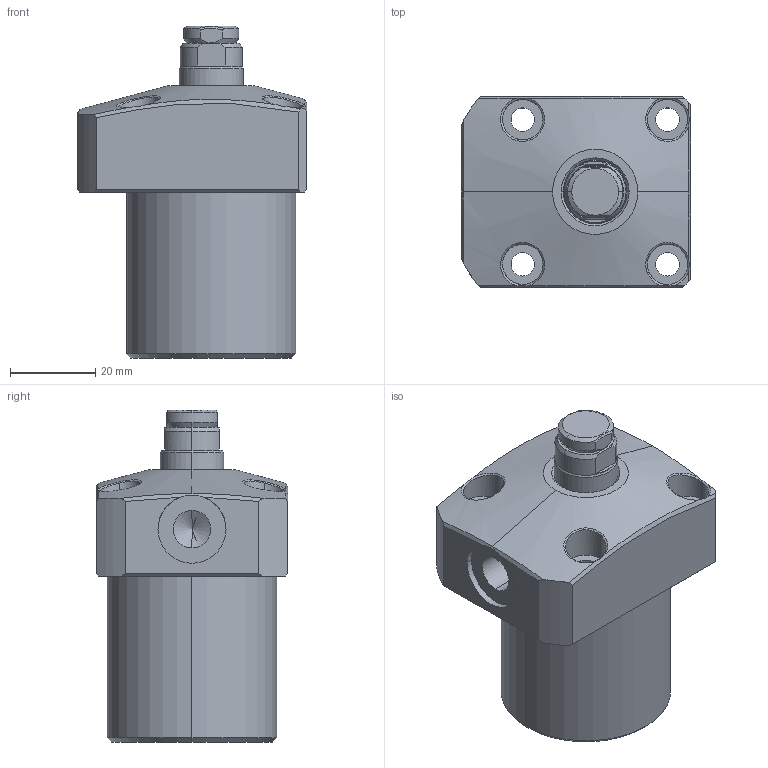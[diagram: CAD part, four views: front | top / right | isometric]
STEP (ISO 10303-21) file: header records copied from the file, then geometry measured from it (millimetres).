
FILE_DESCRIPTION (( 'STEP AP214' ), '1' );
FILE_NAME ('FW10-0401.STEP', '2020-08-06T06:58:05', ( '' ), ( '' ), 'SwSTEP 2.0', 'SolidWorks 2019', '' );
FILE_SCHEMA (( 'AUTOMOTIVE_DESIGN' ));
Length unit declared in the file: millimetre
Products named in the file (4): FW10-0401-BODY; FW10-40-PLUNGER; FW10-0401; FW10-40-PAD
Assembly tree (3 placements, depth 2):
  FW10-0401
    FW10-0401-BODY
    FW10-40-PLUNGER
    FW10-40-PAD
Bounding box: 54 x 45 x 78 mm (x, y, z)
Volume: 97533.8 mm3; surface area: 20089.2 mm2
Topology: 3 solids, 3 shells, 131 faces, 324 edges, 203 vertices
Faces by surface type: cylinder 43, cone 39, plane 35, bspline 14
Entity records: 11582 total; most frequent: CARTESIAN_POINT 8402, ORIENTED_EDGE 640, DIRECTION 588, EDGE_CURVE 320, AXIS2_PLACEMENT_3D 239, VERTEX_POINT 203, EDGE_LOOP 147, FACE_OUTER_BOUND 131
